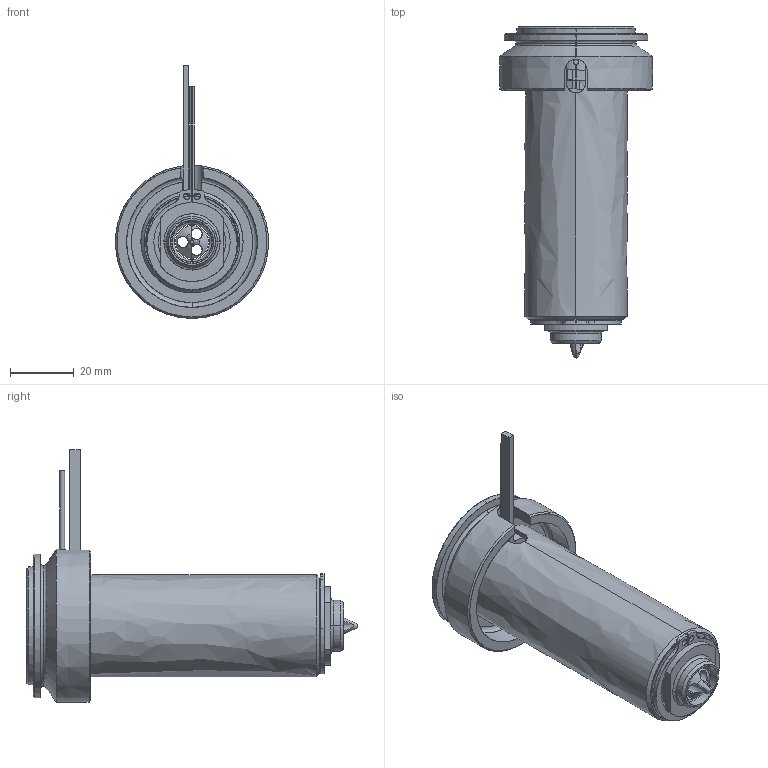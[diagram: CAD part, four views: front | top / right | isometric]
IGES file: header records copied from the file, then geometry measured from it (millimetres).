
Start section: SolidWorks IGES file using analytic representation for surfaces
Global section: file name: C:\Documents and Settings\ws-20\Desktop\TEM\UGEP5002-M-A-0 [Øf-1.18 ØC-13].IGS; native system: SolidWorks 2012; preprocessor: SolidWorks 2012; author: ws-20; date: 120426.101645; units: millimetre
Bounding box: 48 x 104.05 x 79.3 mm (x, y, z)
Surface area: 39707.4 mm2 (no closed solid volume)
Topology: 0 solids, 0 shells, 124 faces, 2309 edges, 2309 vertices
Faces by surface type: revolution 75, bspline 49
